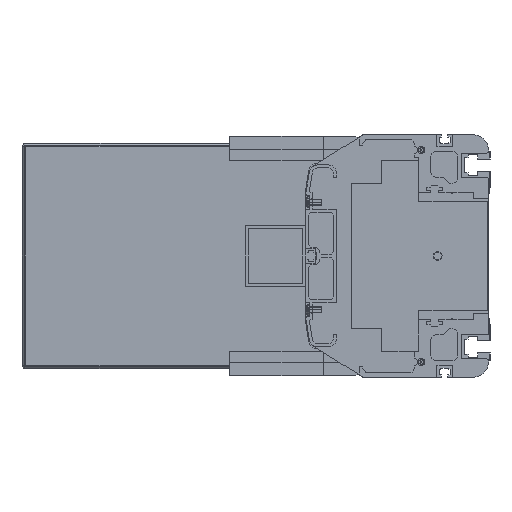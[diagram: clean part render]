
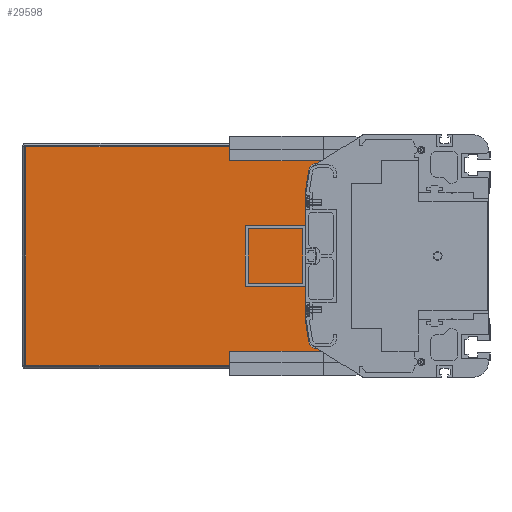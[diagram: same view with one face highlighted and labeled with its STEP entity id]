
A CAD part, left-side view. The second image highlights one B-rep face of the part: STEP entity #29598.
In plain terms, the highlighted planar face has unit normal (-1, 0, 0).
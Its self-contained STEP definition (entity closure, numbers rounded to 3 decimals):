
#3982=DIRECTION('',(0.,0.,-1.));
#3983=VECTOR('',#3982,11.);
#3984=CARTESIAN_POINT('',(3886.5,86.,-61.));
#3985=LINE('',#3984,#3983);
#3991=DIRECTION('',(0.,0.,-1.));
#3992=VECTOR('',#3991,11.);
#3993=CARTESIAN_POINT('',(3886.5,86.,72.));
#3994=LINE('',#3993,#3992);
#9424=DIRECTION('',(0.,1.,0.));
#9425=VECTOR('',#9424,28.728);
#9426=CARTESIAN_POINT('',(3886.5,86.,-61.));
#9427=LINE('',#9426,#9425);
#9432=CARTESIAN_POINT('',(3886.5,114.728,56.));
#9433=DIRECTION('',(-1.,0.,0.));
#9434=DIRECTION('',(0.,0.,1.));
#9435=AXIS2_PLACEMENT_3D('',#9432,#9433,#9434);
#9437=DIRECTION('',(0.,0.156,-0.988));
#9438=VECTOR('',#9437,14.963);
#9439=CARTESIAN_POINT('',(3886.5,119.666,56.78));
#9440=LINE('',#9439,#9438);
#9441=DIRECTION('',(0.,-0.156,-0.988));
#9442=VECTOR('',#9441,14.963);
#9443=CARTESIAN_POINT('',(3886.5,122.,-42.));
#9444=LINE('',#9443,#9442);
#9445=CARTESIAN_POINT('',(3886.5,114.728,-56.));
#9446=DIRECTION('',(-1.,0.,0.));
#9447=DIRECTION('',(0.,0.988,-0.156));
#9448=AXIS2_PLACEMENT_3D('',#9445,#9446,#9447);
#9454=DIRECTION('',(0.,-1.,0.));
#9455=VECTOR('',#9454,220.5);
#9456=CARTESIAN_POINT('',(3886.5,306.5,-72.));
#9457=LINE('',#9456,#9455);
#11951=DIRECTION('',(0.,1.,0.));
#11952=VECTOR('',#11951,220.5);
#11953=CARTESIAN_POINT('',(3886.5,86.,72.));
#11954=LINE('',#11953,#11952);
#11978=DIRECTION('',(0.,0.,-1.));
#11979=VECTOR('',#11978,144.);
#11980=CARTESIAN_POINT('',(3886.5,306.5,72.));
#11981=LINE('',#11980,#11979);
#12710=DIRECTION('',(0.,-1.,0.));
#12711=VECTOR('',#12710,28.728);
#12712=CARTESIAN_POINT('',(3886.5,114.728,61.));
#12713=LINE('',#12712,#12711);
#12726=DIRECTION('',(0.,0.,1.));
#12727=VECTOR('',#12726,84.);
#12728=CARTESIAN_POINT('',(3886.5,122.,-42.));
#12729=LINE('',#12728,#12727);
#18201=CARTESIAN_POINT('',(3886.5,306.5,-72.));
#18202=CARTESIAN_POINT('',(3886.5,86.,-72.));
#18203=VERTEX_POINT('',#18201);
#18204=VERTEX_POINT('',#18202);
#18205=CARTESIAN_POINT('',(3886.5,86.,-61.));
#18206=VERTEX_POINT('',#18205);
#18207=CARTESIAN_POINT('',(3886.5,114.728,-61.));
#18208=VERTEX_POINT('',#18207);
#18209=CARTESIAN_POINT('',(3886.5,119.666,-56.78));
#18210=VERTEX_POINT('',#18209);
#18211=CARTESIAN_POINT('',(3886.5,122.,-42.));
#18212=VERTEX_POINT('',#18211);
#18213=CARTESIAN_POINT('',(3886.5,122.,42.));
#18214=VERTEX_POINT('',#18213);
#18215=CARTESIAN_POINT('',(3886.5,119.666,56.78));
#18216=VERTEX_POINT('',#18215);
#18217=CARTESIAN_POINT('',(3886.5,114.728,61.));
#18218=VERTEX_POINT('',#18217);
#18219=CARTESIAN_POINT('',(3886.5,86.,61.));
#18220=VERTEX_POINT('',#18219);
#18221=CARTESIAN_POINT('',(3886.5,86.,72.));
#18222=VERTEX_POINT('',#18221);
#18223=CARTESIAN_POINT('',(3886.5,306.5,72.));
#18224=VERTEX_POINT('',#18223);
#29570=CARTESIAN_POINT('',(3886.5,196.25,0.));
#29571=DIRECTION('',(1.,0.,0.));
#29572=DIRECTION('',(0.,0.,-1.));
#29573=AXIS2_PLACEMENT_3D('',#29570,#29571,#29572);
#29574=PLANE('',#29573);
#29576=ORIENTED_EDGE('',*,*,#29575,.F.);
#29578=ORIENTED_EDGE('',*,*,#29577,.F.);
#29580=ORIENTED_EDGE('',*,*,#29579,.F.);
#29581=ORIENTED_EDGE('',*,*,#24872,.T.);
#29583=ORIENTED_EDGE('',*,*,#29582,.F.);
#29585=ORIENTED_EDGE('',*,*,#29584,.T.);
#29587=ORIENTED_EDGE('',*,*,#29586,.T.);
#29589=ORIENTED_EDGE('',*,*,#29588,.F.);
#29591=ORIENTED_EDGE('',*,*,#29590,.T.);
#29593=ORIENTED_EDGE('',*,*,#29592,.T.);
#29594=ORIENTED_EDGE('',*,*,#29562,.F.);
#29595=ORIENTED_EDGE('',*,*,#24841,.T.);
#29596=EDGE_LOOP('',(#29576,#29578,#29580,#29581,#29583,#29585,#29587,#29589,
#29591,#29593,#29594,#29595));
#29597=FACE_OUTER_BOUND('',#29596,.F.);
#29598=ADVANCED_FACE('',(#29597),#29574,.F.);
#9436=CIRCLE('',#9435,5.);
#9449=CIRCLE('',#9448,5.);
#24841=EDGE_CURVE('',#18206,#18204,#3985,.T.);
#24872=EDGE_CURVE('',#18222,#18220,#3994,.T.);
#29562=EDGE_CURVE('',#18206,#18208,#9427,.T.);
#29575=EDGE_CURVE('',#18203,#18204,#9457,.T.);
#29577=EDGE_CURVE('',#18224,#18203,#11981,.T.);
#29579=EDGE_CURVE('',#18222,#18224,#11954,.T.);
#29582=EDGE_CURVE('',#18218,#18220,#12713,.T.);
#29584=EDGE_CURVE('',#18218,#18216,#9436,.T.);
#29586=EDGE_CURVE('',#18216,#18214,#9440,.T.);
#29588=EDGE_CURVE('',#18212,#18214,#12729,.T.);
#29590=EDGE_CURVE('',#18212,#18210,#9444,.T.);
#29592=EDGE_CURVE('',#18210,#18208,#9449,.T.);
